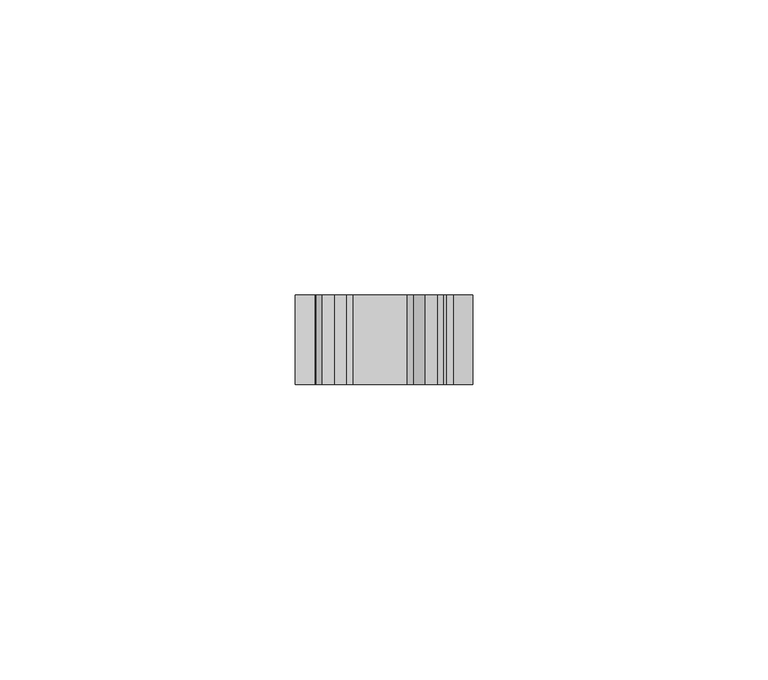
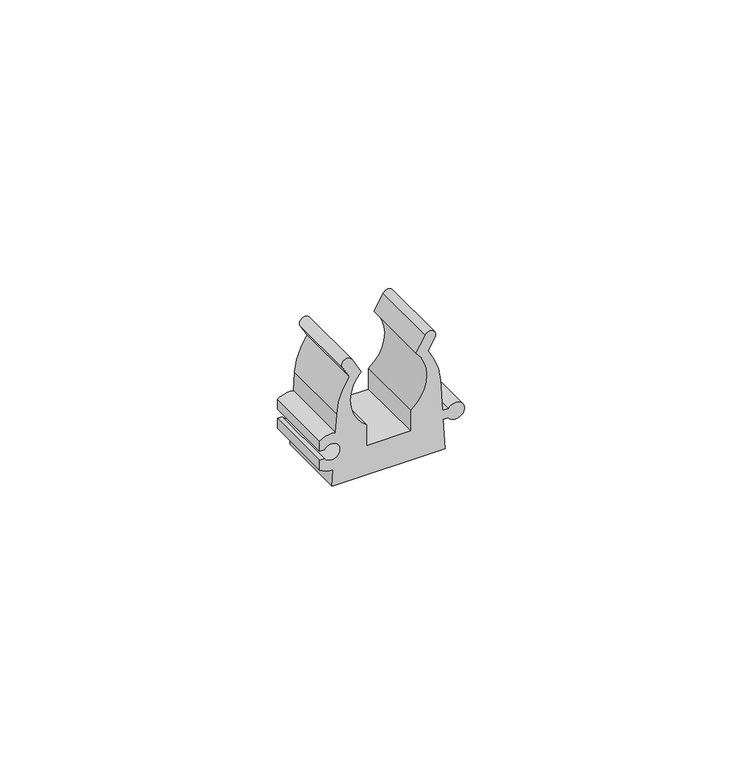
"""IFC4 building model written with IfcOpenShell, lengths in millimetres: valve geometry, Astra - Abraçadeira Plástica - AP : Astra - Abraçadeira Plástica - AP."""

from ifc_helpers import new_model, si_unit, point, frame, frame_2d, origin, place, context, project, spatial, polyline, circle_curve, trimmed, segment, composite_curve, outline, extrude, source, transform, mapped, element, save


def valve_88132709(model_context):
    return source(origin(), model_context, "Body", "SweptSolid", [
        extrude(outline(composite_curve([segment(polyline([(0.0, -11.7735), (0.0, 11.7735), (6.6, 11.3516105), (6.6, 12.455337)]), True, "CONTINUOUS"), segment(trimmed(circle_curve(frame_2d((7.6, 13.952)), 1.8), [point((6.6, 12.455337))], [point((8.6, 12.455337))], False, "CARTESIAN"), True, "CONTINUOUS"), segment(polyline([(8.6, 12.455337), (8.6, 11.2237651), (15.464, 10.785)]), True, "CONTINUOUS"), segment(trimmed(circle_curve(frame_2d((14.5717233, -3.1865369)), 14.0), [point((15.464, 10.785))], [point((22.781, 8.154))], False, "CARTESIAN"), True, "CONTINUOUS"), segment(polyline([(22.781, 8.154), (25.3045, 9.611)]), True, "CONTINUOUS"), segment(trimmed(circle_curve(frame_2d((25.871, 8.63)), 1.1328209), [point((25.3045, 9.611))], [point((26.4375, 7.649))], False, "CARTESIAN"), True, "CONTINUOUS"), segment(polyline([(26.4375, 7.649), (23.099, 5.722)]), True, "CONTINUOUS"), segment(trimmed(circle_curve(frame_2d((17.5079658, 0.0)), 8.0000592), [point((23.099, 5.722))], [point((10.975, 4.6175))], True, "CARTESIAN"), True, "CONTINUOUS"), segment(polyline([(10.975, 4.6175), (6.417, 4.6175), (6.417, -4.6175), (10.975, -4.6175)]), True, "CONTINUOUS"), segment(trimmed(circle_curve(frame_2d((17.5078932, 0.0)), 8.0), [point((10.975, -4.6175))], [point((23.0988427, -5.722))], True, "CARTESIAN"), True, "CONTINUOUS"), segment(polyline([(23.0988427, -5.722), (26.4375, -7.649)]), True, "CONTINUOUS"), segment(trimmed(circle_curve(frame_2d((25.871, -8.63)), 1.1328209), [point((26.4375, -7.649))], [point((25.3045, -9.611))], False, "CARTESIAN"), True, "CONTINUOUS"), segment(polyline([(25.3045, -9.611), (22.781, -8.154)]), True, "CONTINUOUS"), segment(trimmed(circle_curve(frame_2d((14.5717233, 3.1865369)), 14.0), [point((22.781, -8.154))], [point((15.464, -10.785))], False, "CARTESIAN"), True, "CONTINUOUS"), segment(polyline([(15.464, -10.785), (11.5358948, -11.0360949)]), True, "CONTINUOUS"), segment(trimmed(circle_curve(frame_2d((7.6, -11.859)), 4.021), [point((11.5358948, -11.0360949))], [point((10.7564791, -14.35))], False, "CARTESIAN"), True, "CONTINUOUS"), segment(polyline([(10.7564791, -14.35), (8.6, -14.35), (8.6, -13.355663)]), True, "CONTINUOUS"), segment(trimmed(circle_curve(frame_2d((7.6, -11.859)), 1.8), [point((8.6, -13.355663))], [point((6.6, -13.355663))], True, "CARTESIAN"), True, "CONTINUOUS"), segment(polyline([(6.6, -13.355663), (6.6, -14.35), (4.4435209, -14.35)]), True, "CONTINUOUS"), segment(trimmed(circle_curve(frame_2d((7.6, -11.859)), 4.021), [point((4.4435209, -14.35))], [point((3.5913628, -11.5439305))], False, "CARTESIAN"), True, "CONTINUOUS"), segment(polyline([(3.5913628, -11.5439305), (0.0, -11.7735)]), True, "CONTINUOUS")], self_intersect=False)), frame((0.0, -7.6, 0.0), z_axis=(0.0, 1.0, 0.0), x_axis=(0.0, 0.0, 1.0)), (0.0, 0.0, 1.0), 15.2),
    ])


if __name__ == "__main__":
    model = new_model("IFC4")
    model_context = context("Model", 3, world=origin())
    ifc_project = project(units=[si_unit("LENGTHUNIT", "METRE", prefix="MILLI")], contexts=[model_context])
    site = spatial("IfcSite", under=ifc_project)
    building = spatial("IfcBuilding", under=site)
    placement = place(None, origin())
    valve_shape = valve_88132709(model_context)
    element("IfcValve", 1, ObjectType="Astra - Abraçadeira Plástica - AP : Astra - Abraçadeira Plástica - AP", at=placement, inside=building, context=model_context, shape_type="MappedRepresentation", body=[
        mapped(valve_shape, transform((0.0, 0.0, 0.0), x_axis=(1.0, 0.0, 0.0), y_axis=(0.0, 1.0, 0.0), z_axis=(0.0, 0.0, 1.0))),
    ])
    save(model, "model.ifc")
